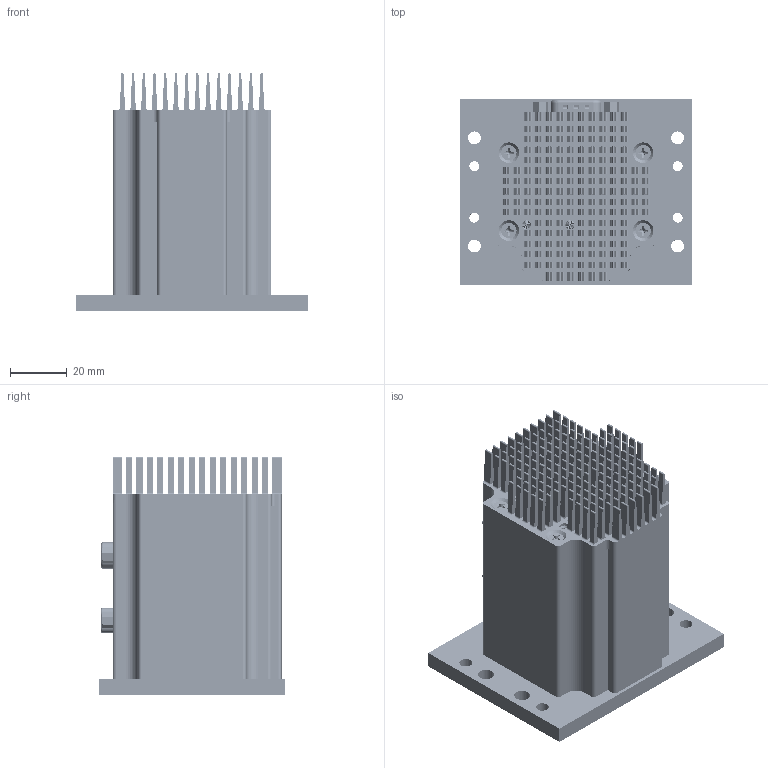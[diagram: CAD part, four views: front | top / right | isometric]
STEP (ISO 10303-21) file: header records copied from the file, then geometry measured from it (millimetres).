
FILE_DESCRIPTION(/* description */ ('Alibre Inc.'),/* implementation_level */ '2;1');
FILE_NAME(/* name */ 'export0',/* time_stamp */ '2016-06-17T09:05:45-07:00',/* author */ (''),/* organization */ (''),/* preprocessor_version */ 'ST-DEVELOPER v14',/* originating_system */ 'Alibre',/* authorisation */ '');
FILE_SCHEMA (('AUTOMOTIVE_DESIGN'));
Products named in the file (13): 92710A216; 91500A128
Bounding box: 81.79 x 65.28 x 83.82 mm (x, y, z)
Volume: 76459.1 mm3; surface area: 68953.6 mm2
Topology: 15 solids, 35 shells, 3691 faces, 9626 edges, 6251 vertices
Faces by surface type: plane 1624, cylinder 1581, cone 213, bspline 142, torus 109, sphere 17, revolution 5
Full cylindrical faces by diameter (mm): 0.483 x2, 0.6 x17, 0.76 x45, 0.95 x15, 1.01 x15, 1.34 x15, 1.55 x15, 2.156 x8, 2.54 x2, 2.705 x2, 3.048 x4, 3.175 x6, 3.505 x4, 3.556 x2, 4 x2, 4.089 x4, 4.15 x2, 4.3 x2, 4.496 x4, 4.889 x1, 5.3 x2, 5.588 x4
Entity records: 107440 total; most frequent: CARTESIAN_POINT 39090, ORIENTED_EDGE 15824, DIRECTION 11201, EDGE_CURVE 7912, VERTEX_POINT 5205, AXIS2_PLACEMENT_3D 4576, EDGE_LOOP 3643, FACE_BOUND 3643
